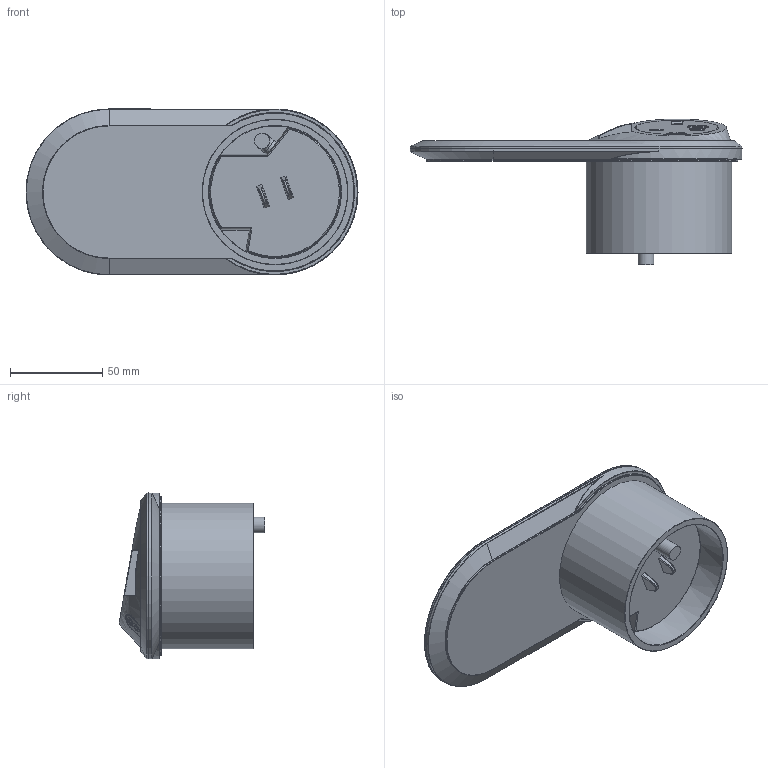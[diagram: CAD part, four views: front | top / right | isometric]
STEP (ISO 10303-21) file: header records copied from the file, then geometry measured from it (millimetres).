
FILE_DESCRIPTION((''),'2;1');
FILE_NAME('P:\Manufacturing\Autocad drawings\Inventor\blocks\PixelARC - Blocks\PixelARC UKF - Block.stp','2021-03-04T12:30:21',('ScottReyner'),(''),'Autodesk Inventor 2012','Autodesk Inventor 2012','');
FILE_SCHEMA(('AUTOMOTIVE_DESIGN { 1 0 10303 214 1 1 1 1 }'));
Length unit declared in the file: millimetre
Products named in the file (1): Part102
Bounding box: 180 x 79.15 x 90 mm (x, y, z)
Volume: 271417.2 mm3; surface area: 82045.4 mm2
Topology: 4 solids, 4 shells, 3033 faces, 8475 edges, 5495 vertices
Faces by surface type: plane 1890, cylinder 787, bspline 272, cone 54, torus 24, sphere 6
Full cylindrical faces by diameter (mm): 8.4 x1, 45.135 x1, 73 x1, 79 x1
Entity records: 110629 total; most frequent: CARTESIAN_POINT 32738, ORIENTED_EDGE 16870, DIRECTION 15106, EDGE_CURVE 8435, VECTOR 6140, LINE 6140, VERTEX_POINT 5483, AXIS2_PLACEMENT_3D 4483
